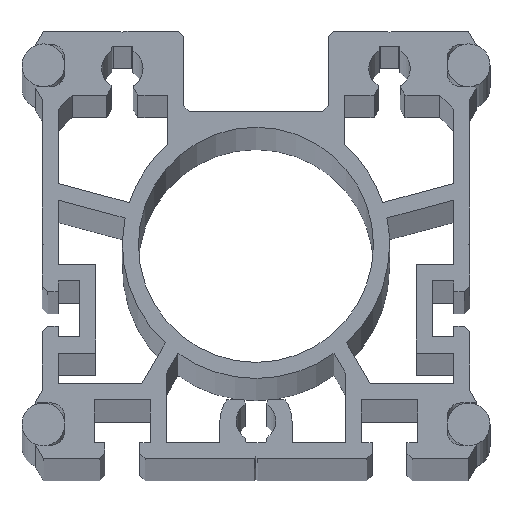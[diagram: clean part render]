
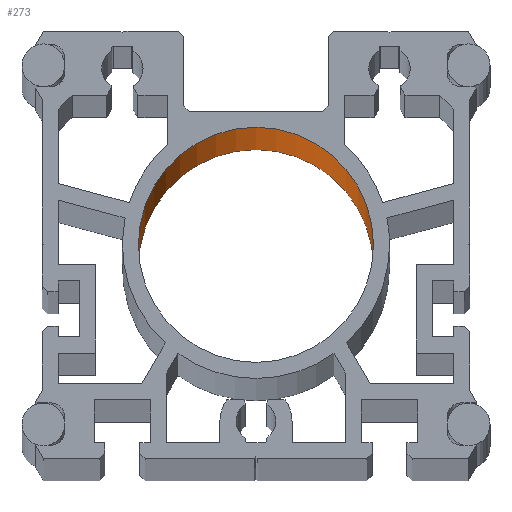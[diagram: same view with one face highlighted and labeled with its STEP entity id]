
A CAD part, top view. The second image highlights one B-rep face of the part: STEP entity #273.
In plain terms, the highlighted cylindrical face has radius 22 mm (diameter 44 mm), a partial arc.
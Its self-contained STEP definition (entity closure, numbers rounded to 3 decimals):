
#271 = EDGE_CURVE ( 'NONE', #1284, #1281, #5839, .T. ) ;
#273 = ADVANCED_FACE ( 'NONE', ( #5834 ), #5833, .F. ) ;
#274 = EDGE_LOOP ( 'NONE', ( #275, #276, #277, #278 ) ) ;
#275 = ORIENTED_EDGE ( 'NONE', *, *, #1280, .F. ) ;
#276 = ORIENTED_EDGE ( 'NONE', *, *, #5153, .F. ) ;
#277 = ORIENTED_EDGE ( 'NONE', *, *, #1331, .T. ) ;
#278 = ORIENTED_EDGE ( 'NONE', *, *, #271, .T. ) ;
#1278 = VERTEX_POINT ( 'NONE', #7468 ) ;
#1280 = EDGE_CURVE ( 'NONE', #1314, #1281, #7467, .T. ) ;
#1281 = VERTEX_POINT ( 'NONE', #7463 ) ;
#1284 = VERTEX_POINT ( 'NONE', #7447 ) ;
#1314 = VERTEX_POINT ( 'NONE', #7373 ) ;
#1331 = EDGE_CURVE ( 'NONE', #1278, #1284, #7362, .T. ) ;
#4514 = DIRECTION ( 'NONE',  ( 1., 0., 0. ) ) ;
#4515 = DIRECTION ( 'NONE',  ( 0., 0., 1. ) ) ;
#4516 = CARTESIAN_POINT ( 'NONE',  ( 0., 40., -1199. ) ) ;
#4517 = AXIS2_PLACEMENT_3D ( 'NONE', #4516, #4515, #4514 ) ;
#4518 = CIRCLE ( 'NONE', #4517, 22. ) ;
#5153 = EDGE_CURVE ( 'NONE', #1278, #1314, #4518, .T. ) ;
#5828 = DIRECTION ( 'NONE',  ( 1., 0., 0. ) ) ;
#5829 = DIRECTION ( 'NONE',  ( 0., 0., 1. ) ) ;
#5830 = CARTESIAN_POINT ( 'NONE',  ( 0., 40., -1199. ) ) ;
#5831 = AXIS2_PLACEMENT_3D ( 'NONE', #5830, #5829, #5828 ) ;
#5833 = CYLINDRICAL_SURFACE ( 'NONE', #5831, 22. ) ;
#5834 = FACE_OUTER_BOUND ( 'NONE', #274, .T. ) ;
#5835 = DIRECTION ( 'NONE',  ( 1., 0., 0. ) ) ;
#5836 = DIRECTION ( 'NONE',  ( 0., 0., 1. ) ) ;
#5837 = CARTESIAN_POINT ( 'NONE',  ( 0., 40., 1199. ) ) ;
#5838 = AXIS2_PLACEMENT_3D ( 'NONE', #5837, #5836, #5835 ) ;
#5839 = CIRCLE ( 'NONE', #5838, 22. ) ;
#7359 = DIRECTION ( 'NONE',  ( 0., 0., 1. ) ) ;
#7360 = VECTOR ( 'NONE', #7359, 1000. ) ;
#7361 = CARTESIAN_POINT ( 'NONE',  ( 22., 40., -1199. ) ) ;
#7362 = LINE ( 'NONE', #7361, #7360 ) ;
#7373 = CARTESIAN_POINT ( 'NONE',  ( -22., 40., -1199. ) ) ;
#7447 = CARTESIAN_POINT ( 'NONE',  ( 22., 40., 1199. ) ) ;
#7463 = CARTESIAN_POINT ( 'NONE',  ( -22., 40., 1199. ) ) ;
#7464 = DIRECTION ( 'NONE',  ( 0., 0., 1. ) ) ;
#7465 = VECTOR ( 'NONE', #7464, 1000. ) ;
#7466 = CARTESIAN_POINT ( 'NONE',  ( -22., 40., -1199. ) ) ;
#7467 = LINE ( 'NONE', #7466, #7465 ) ;
#7468 = CARTESIAN_POINT ( 'NONE',  ( 22., 40., -1199. ) ) ;
